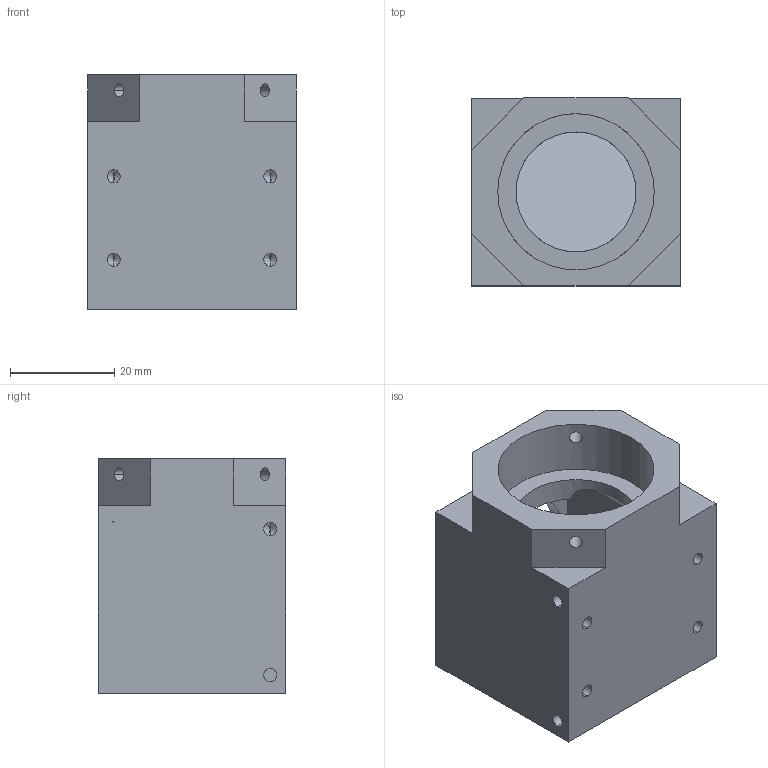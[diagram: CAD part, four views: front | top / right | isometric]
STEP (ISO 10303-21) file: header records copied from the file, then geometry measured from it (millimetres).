
FILE_DESCRIPTION (( 'STEP AP214' ), '1' );
FILE_NAME ('MML-PL30HR.STEP', '2026-02-24T05:48:56', ( '' ), ( '' ), 'SwSTEP 2.0', 'SolidWorks 2025', '' );
FILE_SCHEMA (( 'AUTOMOTIVE_DESIGN' ));
Length unit declared in the file: millimetre
Products named in the file (1): MML-PL30HR
Bounding box: 40 x 36 x 45 mm (x, y, z)
Volume: 42296.5 mm3; surface area: 13274.3 mm2
Topology: 1 solids, 5 shells, 194 faces, 471 edges, 282 vertices
Faces by surface type: plane 81, cylinder 53, cone 42, torus 14, sphere 4
Entity records: 5974 total; most frequent: CARTESIAN_POINT 1474, DIRECTION 979, ORIENTED_EDGE 902, EDGE_CURVE 451, AXIS2_PLACEMENT_3D 407, VERTEX_POINT 282, EDGE_LOOP 225, CIRCLE 212
